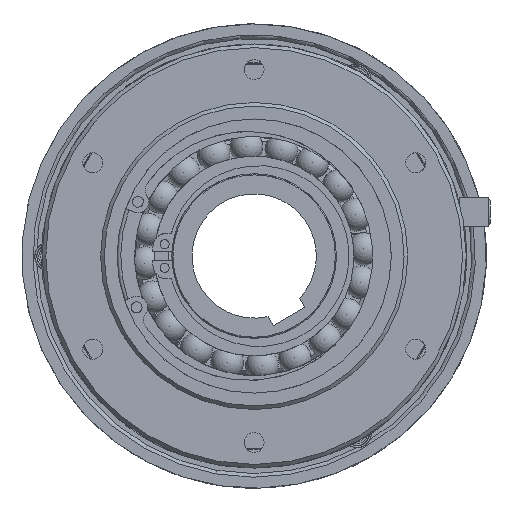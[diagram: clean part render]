
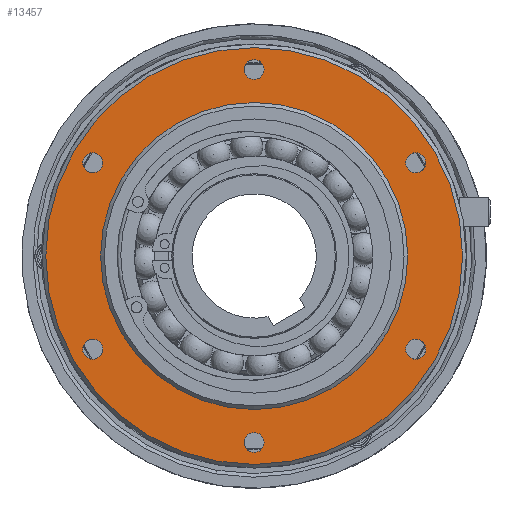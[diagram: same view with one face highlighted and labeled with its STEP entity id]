
A CAD part, left-side view. The second image highlights one B-rep face of the part: STEP entity #13457.
In plain terms, the highlighted planar face has unit normal (-1, 0, 0).
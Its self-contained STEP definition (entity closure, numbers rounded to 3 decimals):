
#898=FACE_BOUND('',#4341,.T.);
#899=FACE_BOUND('',#4342,.T.);
#900=FACE_BOUND('',#4343,.T.);
#901=FACE_BOUND('',#4344,.T.);
#902=FACE_BOUND('',#4345,.T.);
#903=FACE_BOUND('',#4346,.T.);
#904=FACE_BOUND('',#4347,.T.);
#1309=PLANE('',#14578);
#3530=FACE_OUTER_BOUND('',#4340,.T.);
#4340=EDGE_LOOP('',(#10720));
#4341=EDGE_LOOP('',(#10721));
#4342=EDGE_LOOP('',(#10722));
#4343=EDGE_LOOP('',(#10723));
#4344=EDGE_LOOP('',(#10724));
#4345=EDGE_LOOP('',(#10725));
#4346=EDGE_LOOP('',(#10726));
#4347=EDGE_LOOP('',(#10727));
#5245=CIRCLE('',#14466,2.73);
#5297=CIRCLE('',#14542,2.73);
#5300=CIRCLE('',#14549,2.73);
#5303=CIRCLE('',#14556,2.73);
#5306=CIRCLE('',#14563,2.73);
#5309=CIRCLE('',#14570,2.73);
#5311=CIRCLE('',#14575,42.);
#5313=CIRCLE('',#14579,57.);
#6308=VERTEX_POINT('',#25637);
#6375=VERTEX_POINT('',#25823);
#6378=VERTEX_POINT('',#25837);
#6379=VERTEX_POINT('',#25847);
#6382=VERTEX_POINT('',#25861);
#6383=VERTEX_POINT('',#25871);
#6385=VERTEX_POINT('',#25878);
#6387=VERTEX_POINT('',#25884);
#7868=EDGE_CURVE('',#6308,#6308,#5245,.T.);
#7963=EDGE_CURVE('',#6375,#6375,#5297,.T.);
#7970=EDGE_CURVE('',#6378,#6378,#5300,.T.);
#7975=EDGE_CURVE('',#6379,#6379,#5303,.T.);
#7982=EDGE_CURVE('',#6382,#6382,#5306,.T.);
#7987=EDGE_CURVE('',#6383,#6383,#5309,.T.);
#7989=EDGE_CURVE('',#6385,#6385,#5311,.T.);
#7991=EDGE_CURVE('',#6387,#6387,#5313,.T.);
#10720=ORIENTED_EDGE('',*,*,#7991,.F.);
#10721=ORIENTED_EDGE('',*,*,#7989,.T.);
#10722=ORIENTED_EDGE('',*,*,#7868,.T.);
#10723=ORIENTED_EDGE('',*,*,#7963,.T.);
#10724=ORIENTED_EDGE('',*,*,#7970,.T.);
#10725=ORIENTED_EDGE('',*,*,#7975,.T.);
#10726=ORIENTED_EDGE('',*,*,#7982,.T.);
#10727=ORIENTED_EDGE('',*,*,#7987,.T.);
#13457=ADVANCED_FACE('',(#3530,#898,#899,#900,#901,#902,#903,#904),#1309,
 .T.);
#14466=AXIS2_PLACEMENT_3D('',#25638,#16978,#16979);
#14542=AXIS2_PLACEMENT_3D('',#25824,#17173,#17174);
#14549=AXIS2_PLACEMENT_3D('',#25838,#17191,#17192);
#14556=AXIS2_PLACEMENT_3D('',#25848,#17207,#17208);
#14563=AXIS2_PLACEMENT_3D('',#25862,#17225,#17226);
#14570=AXIS2_PLACEMENT_3D('',#25872,#17241,#17242);
#14575=AXIS2_PLACEMENT_3D('',#25879,#17251,#17252);
#14578=AXIS2_PLACEMENT_3D('',#25883,#17257,#17258);
#14579=AXIS2_PLACEMENT_3D('',#25885,#17259,#17260);
#16978=DIRECTION('center_axis',(1.,0.,0.));
#16979=DIRECTION('ref_axis',(0.,1.,0.));
#17173=DIRECTION('center_axis',(1.,0.,0.));
#17174=DIRECTION('ref_axis',(0.,0.5,0.866));
#17191=DIRECTION('center_axis',(1.,0.,0.));
#17192=DIRECTION('ref_axis',(0.,-0.5,0.866));
#17207=DIRECTION('center_axis',(1.,0.,0.));
#17208=DIRECTION('ref_axis',(0.,-1.,0.));
#17225=DIRECTION('center_axis',(1.,0.,0.));
#17226=DIRECTION('ref_axis',(0.,-0.5,-0.866));
#17241=DIRECTION('center_axis',(1.,0.,0.));
#17242=DIRECTION('ref_axis',(0.,0.5,-0.866));
#17251=DIRECTION('center_axis',(1.,0.,0.));
#17252=DIRECTION('ref_axis',(0.,0.,
-1.));
#17257=DIRECTION('center_axis',(-1.,0.,0.));
#17258=DIRECTION('ref_axis',(0.,1.,0.));
#17259=DIRECTION('center_axis',(1.,0.,0.));
#17260=DIRECTION('ref_axis',(0.,0.,
1.));
#25637=CARTESIAN_POINT('',(-89.991,46.897,-25.5));
#25638=CARTESIAN_POINT('Origin',(-89.991,44.167,-25.5));
#25823=CARTESIAN_POINT('',(-89.991,45.532,27.864));
#25824=CARTESIAN_POINT('Origin',(-89.991,44.167,25.5));
#25837=CARTESIAN_POINT('',(-89.991,-1.365,53.364));
#25838=CARTESIAN_POINT('Origin',(-89.991,0.,
51.));
#25847=CARTESIAN_POINT('',(-89.991,-46.897,25.5));
#25848=CARTESIAN_POINT('Origin',(-89.991,-44.167,25.5));
#25861=CARTESIAN_POINT('',(-89.991,-45.532,-27.864));
#25862=CARTESIAN_POINT('Origin',(-89.991,-44.167,-25.5));
#25871=CARTESIAN_POINT('',(-89.991,1.365,-53.364));
#25872=CARTESIAN_POINT('Origin',(-89.991,0.,
-51.));
#25878=CARTESIAN_POINT('',(-89.991,0.,-42.));
#25879=CARTESIAN_POINT('Origin',(-89.991,0.,
0.));
#25883=CARTESIAN_POINT('Origin',(-89.991,0.,
-50.));
#25884=CARTESIAN_POINT('',(-89.991,0.,-57.));
#25885=CARTESIAN_POINT('Origin',(-89.991,0.,
0.));
